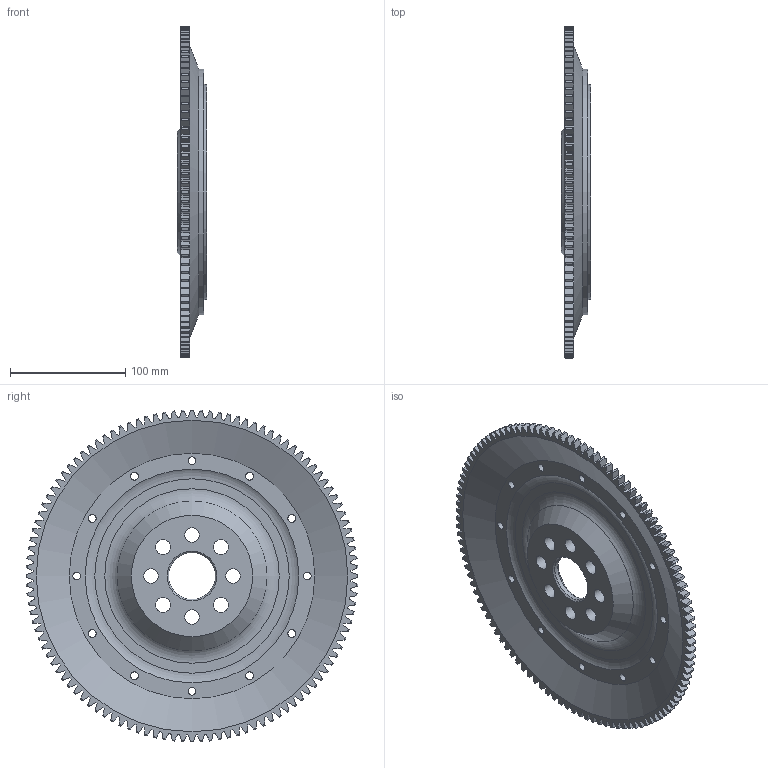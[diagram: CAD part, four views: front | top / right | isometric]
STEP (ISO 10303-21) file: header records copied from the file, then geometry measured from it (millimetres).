
FILE_DESCRIPTION(/* description */ ('Unknown'),/* implementation_level */ '2;1');
FILE_NAME(/* name */ '51-3568 SIMPLE',/* time_stamp */ '2020-03-06T12:37:11-08:00',/* author */ ('Unknown'),/* organization */ ('Unknown'),/* preprocessor_version */ 'ST-DEVELOPER v16.7',/* originating_system */ 'DEX',/* authorisation */ $);
FILE_SCHEMA (('AUTOMOTIVE_DESIGN {1 0 10303 214 3 1 1}'));
Length unit declared in the file: millimetre
Products named in the file (1): 51-3568 SIMPLE
Bounding box: 25.65 x 288.29 x 288.29 mm (x, y, z)
Volume: 456756.4 mm3; surface area: 152156.5 mm2
Topology: 1 solids, 1 shells, 712 faces, 2115 edges, 1411 vertices
Faces by surface type: plane 344, cone 230, cylinder 135, torus 3
Full cylindrical faces by diameter (mm): 6.792 x12, 12.7 x8, 40.64 x1, 186.842 x1, 213.36 x1
Entity records: 29158 total; most frequent: CARTESIAN_POINT 5535, ORIENTED_EDGE 4150, DIRECTION 3560, EDGE_CURVE 2075, VERTEX_POINT 1403, AXIS2_PLACEMENT_3D 1220, LINE 1120, VECTOR 1120
